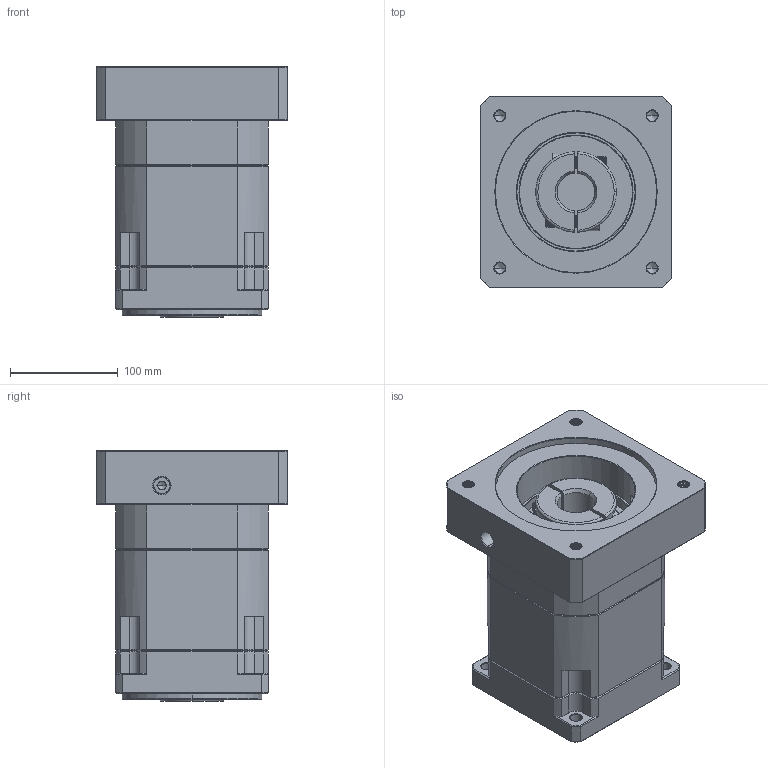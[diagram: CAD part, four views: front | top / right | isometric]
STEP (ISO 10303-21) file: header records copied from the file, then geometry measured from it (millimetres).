
FILE_DESCRIPTION (( 'STEP AP214' ), '1' );
FILE_NAME ('ZB142A-K35-L2-P2-35-150-200-M12.step', '2023-09-01T11:47:42', ( '' ), ( '' ), 'SwSTEP 2.0', 'SolidWorks 2016', '' );
FILE_SCHEMA (( 'AUTOMOTIVE_DESIGN' ));
Length unit declared in the file: millimetre
Products named in the file (1): ZB142A-K35-L2-P2-35-150-200-M12
Bounding box: 178 x 178 x 233.2 mm (x, y, z)
Volume: 4357954.8 mm3; surface area: 332564.8 mm2
Topology: 6 solids, 6 shells, 2243 faces, 6018 edges, 3878 vertices
Faces by surface type: plane 1096, bspline 404, cylinder 377, cone 346, torus 20
Entity records: 123002 total; most frequent: CARTESIAN_POINT 45163, ORIENTED_EDGE 11980, DIRECTION 9559, EDGE_CURVE 5990, VERTEX_POINT 3878, VECTOR 3829, LINE 3829, AXIS2_PLACEMENT_3D 2865
